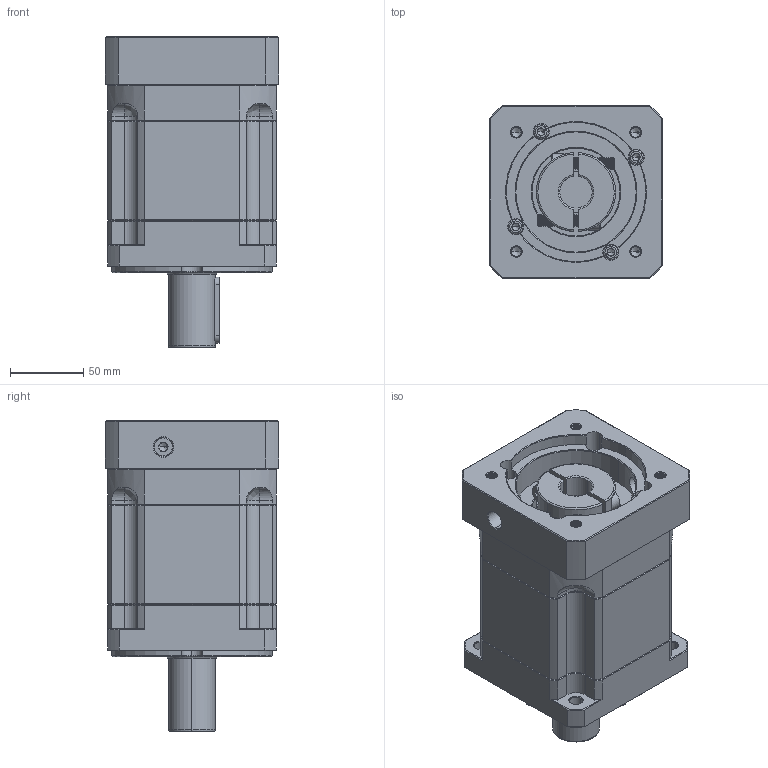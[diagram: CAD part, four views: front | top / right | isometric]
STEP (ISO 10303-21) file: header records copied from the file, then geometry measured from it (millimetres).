
FILE_DESCRIPTION (( 'STEP AP214' ), '1' );
FILE_NAME ('ZB115A-D32-L2-22-95-115-M8.step', '2023-03-02T09:01:15', ( '' ), ( 'Microsoft' ), 'SwSTEP 2.0', 'SolidWorks 2016', '' );
FILE_SCHEMA (( 'AUTOMOTIVE_DESIGN' ));
Length unit declared in the file: millimetre
Products named in the file (1): ZB115A-D32-L2-22-95-115-M8
Bounding box: 118 x 118 x 212 mm (x, y, z)
Volume: 1808155.1 mm3; surface area: 175797.9 mm2
Topology: 6 solids, 6 shells, 2129 faces, 5508 edges, 3470 vertices
Faces by surface type: plane 964, cylinder 448, cone 372, bspline 325, torus 20
Entity records: 114075 total; most frequent: CARTESIAN_POINT 41627, ORIENTED_EDGE 10948, DIRECTION 8990, EDGE_CURVE 5474, VERTEX_POINT 3470, LINE 3378, VECTOR 3378, AXIS2_PLACEMENT_3D 2806
